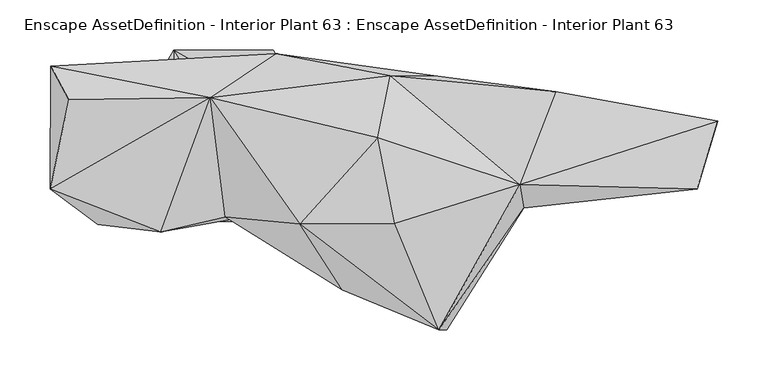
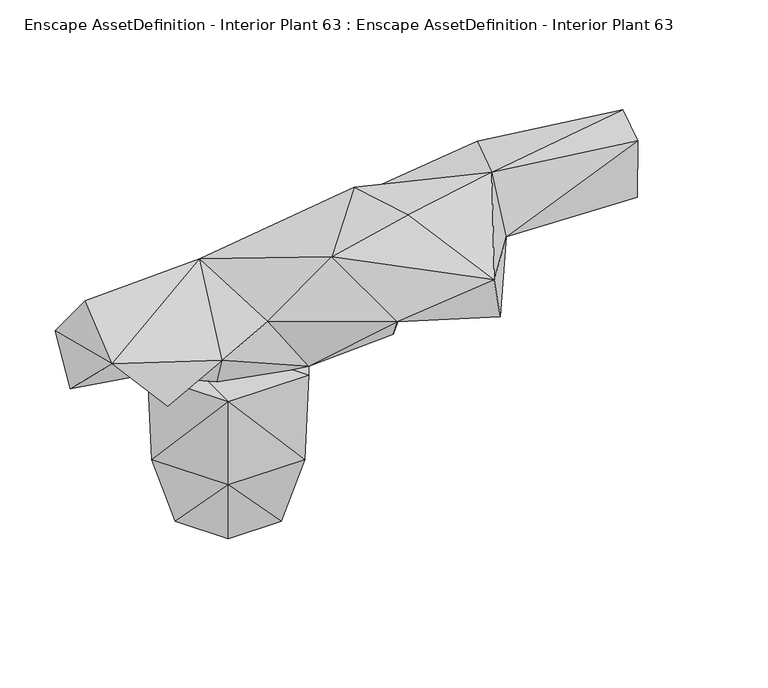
"""IFC4 building model written with IfcOpenShell, lengths in millimetres: geographic element geometry, Enscape AssetDefinition - Interior Plant 63 : Enscape AssetDefinition - Interior Plant 63."""

from ifc_helpers import new_model, si_unit, origin, place, context, project, spatial, faceted_brep, source, transform, mapped, element, save


def enscape_assetdefinition_interior_plant_63_enscape_0fecf210(model_context):
    return source(origin(), model_context, "Body", "Brep", [
        faceted_brep([(300.1649976, -72.1509978, 285.5490148), (218.7750041, -20.4750001, 236.0589951), (210.244, 59.9340014, 247.4250048), (222.8399962, -193.9920038, 282.5089991), (118.542999, -154.369995, 288.7409925), (159.6100032, -75.4740015, 209.7830027), (215.0730044, -194.1200048, 333.4020078), (76.1139989, -88.3819982, 347.600013), (1.618, -81.1289996, 285.8679891), (55.422999, -75.2590001, 205.0520033), (73.9429966, -44.027999, 193.0000037), (-36.5529992, -38.3820012, 189.1870052), (-62.7420023, -96.0899964, 266.7320073), (-13.1310001, 38.2549986, 299.9329865), (-109.8159999, 9.9919997, 197.0719993), (-173.3440012, -53.3349998, 274.6480107), (-125.7250011, -88.9670029, 224.6389985), (32.7080004, 1.413, 170.3799963), (52.0499982, 81.8789974, 229.3490022), (-167.7889973, 45.8730012, 180.5119962), (-172.4220067, 69.7629973, 242.6169962), (-154.5670033, 36.2690017, 295.9820032), (166.4489955, 60.2150001, 292.9509878), (331.833005, 44.1390015, 328.0810118), (387.1900141, 1.023, 290.3349996), (296.220988, -48.6119986, 356.5540016), (154.2070061, -1.606, 358.3329916), (494.0670133, 14.8670003, 329.8819959), (474.5750129, -49.660001, 262.3629868), (473.127991, -53.3530004, 338.7210071), (171.1139977, -87.6410007, 368.6659932)], [[[0, 1, 2]], [[0, 3, 1]], [[1, 4, 5]], [[2, 1, 5]], [[4, 1, 3]], [[6, 4, 3]], [[0, 6, 3]], [[7, 4, 6]], [[7, 8, 4]], [[4, 8, 9]], [[5, 4, 9]], [[10, 5, 9]], [[10, 2, 5]], [[11, 9, 12]], [[9, 11, 10]], [[9, 8, 12]], [[7, 13, 8]], [[8, 13, 12]], [[14, 11, 12]], [[12, 15, 16]], [[14, 12, 16]], [[13, 15, 12]], [[11, 17, 10]], [[18, 17, 11]], [[14, 18, 11]], [[15, 14, 16]], [[19, 18, 14]], [[14, 15, 19]], [[20, 19, 15]], [[21, 15, 13]], [[15, 21, 20]], [[19, 20, 18]], [[13, 20, 21]], [[13, 18, 20]], [[18, 2, 10]], [[22, 2, 18]], [[18, 10, 17]], [[22, 18, 13]], [[23, 2, 22]], [[2, 24, 0]], [[2, 23, 24]], [[23, 22, 25]], [[25, 22, 26]], [[26, 22, 13]], [[23, 25, 27]], [[27, 24, 23]], [[27, 28, 24]], [[28, 0, 24]], [[25, 6, 0]], [[25, 0, 29]], [[28, 29, 0]], [[27, 29, 28]], [[25, 29, 27]], [[25, 30, 6]], [[26, 30, 25]], [[26, 13, 7]], [[26, 7, 30]], [[30, 7, 6]]]),
        faceted_brep([(65.2749985, 0.0, 0.0), (-32.6370001, -56.5299988, 0.0), (-32.6370001, 56.5299988, 0.0), (32.6370001, -56.5299988, 0.0), (-47.0429994, -81.4810023, 90.135999), (-65.2749985, 0.0, 0.0), (47.0429994, -81.4810023, 90.135999), (-94.0859988, 0.0, 90.135999), (-49.5360009, -85.7999995, 201.4220059), (-47.0429994, 81.4810023, 90.135999), (-99.0730003, 0.0, 201.4220059), (49.5360009, -85.7999995, 201.4220059), (-49.5360009, 85.7999995, 201.4220059), (94.0859988, 0.0, 90.135999), (99.0730003, 0.0, 201.4220059), (49.5360009, 85.7999995, 201.4220059), (47.0429994, 81.4810023, 90.135999), (32.6370001, 56.5299988, 0.0)], [[[0, 1, 2]], [[1, 3, 4]], [[1, 0, 3]], [[2, 1, 5]], [[4, 5, 1]], [[3, 0, 6]], [[4, 3, 6]], [[7, 5, 4]], [[4, 6, 8]], [[8, 7, 4]], [[2, 5, 9]], [[9, 5, 7]], [[10, 7, 8]], [[10, 9, 7]], [[8, 6, 11]], [[8, 12, 10]], [[12, 8, 11]], [[6, 13, 11]], [[6, 0, 13]], [[12, 11, 14]], [[11, 13, 14]], [[15, 16, 12]], [[12, 9, 10]], [[12, 16, 9]], [[12, 14, 15]], [[16, 2, 9]], [[17, 2, 16]], [[0, 2, 17]], [[16, 0, 17]], [[13, 0, 16]], [[13, 16, 14]], [[14, 16, 15]]]),
    ])


if __name__ == "__main__":
    model = new_model("IFC4")
    model_context = context("Model", 3, world=origin())
    ifc_project = project(units=[si_unit("LENGTHUNIT", "METRE", prefix="MILLI")], contexts=[model_context])
    site = spatial("IfcSite", under=ifc_project)
    building = spatial("IfcBuilding", under=site)
    placement = place(None, origin())
    enscape_assetdefinition_interior_plant_63_enscape_shape = enscape_assetdefinition_interior_plant_63_enscape_0fecf210(model_context)
    element("IfcGeographicElement", 1, ObjectType="Enscape AssetDefinition - Interior Plant 63 : Enscape AssetDefinition - Interior Plant 63", at=placement, inside=building, context=model_context, shape_type="MappedRepresentation", body=[
        mapped(enscape_assetdefinition_interior_plant_63_enscape_shape, transform((0.0, 0.0, 0.0), x_axis=(1.0, 0.0, 0.0), y_axis=(0.0, 1.0, 0.0), z_axis=(0.0, 0.0, 1.0))),
    ])
    save(model, "model.ifc")
